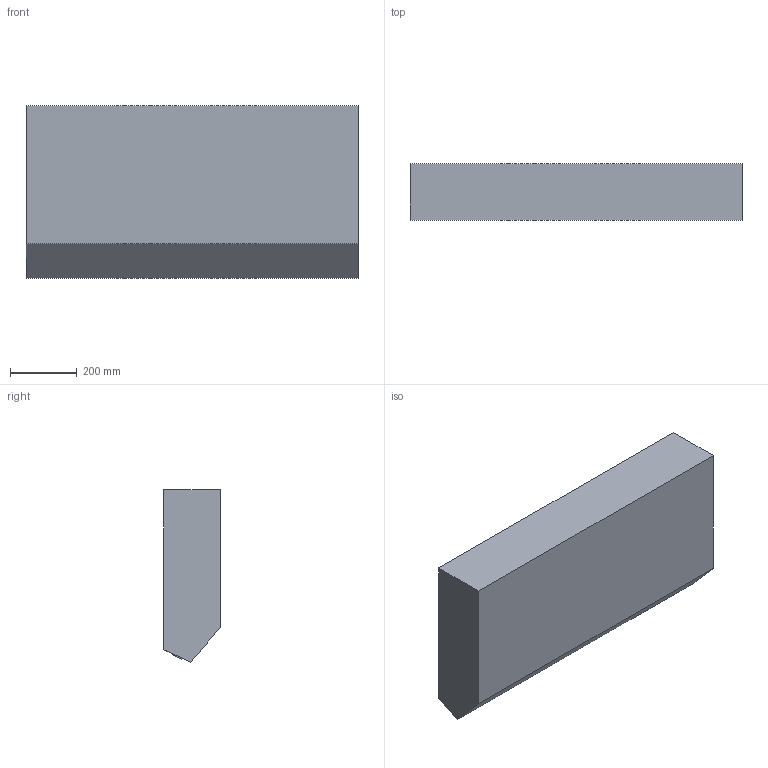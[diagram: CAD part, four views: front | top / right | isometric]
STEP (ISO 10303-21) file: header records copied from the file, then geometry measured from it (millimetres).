
FILE_DESCRIPTION((''),'2;1');
FILE_NAME('H1002','2018-01-29T14:02:24',('r.avril'),(''),'CREO PARAMETRIC BY PTC INC, 2017260','CREO PARAMETRIC BY PTC INC, 2017260','');
FILE_SCHEMA(('AP203_CONFIGURATION_CONTROLLED_3D_DESIGN_OF_MECHANICAL_PARTS_AND_ASSEMBLIES_MIM_LF { 1 0 10303 403 2 1 2 }'));
Length unit declared in the file: millimetre
Products named in the file (1): H1002
Bounding box: 998 x 170 x 518 mm (x, y, z)
Volume: 81745240 mm3; surface area: 1452386.5 mm2
Topology: 1 solids, 1 shells, 22 faces, 51 edges, 34 vertices
Faces by surface type: plane 22
Entity records: 955 total; most frequent: CARTESIAN_POINT 118, DIRECTION 108, ORIENTED_EDGE 102, VECTOR 51, LINE 51, EDGE_CURVE 51, PROPERTY_DEFINITION 45, REPRESENTATION 44
